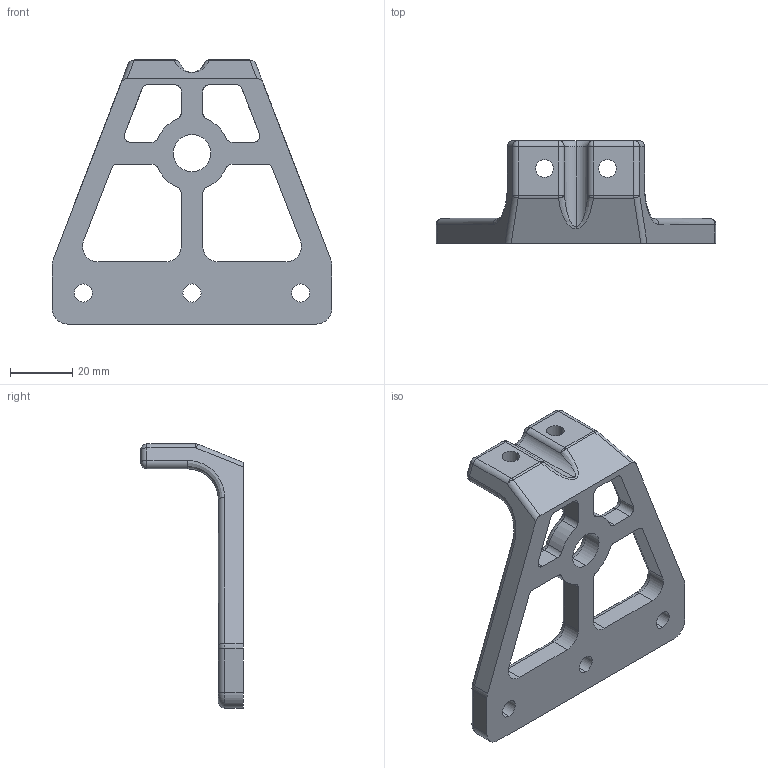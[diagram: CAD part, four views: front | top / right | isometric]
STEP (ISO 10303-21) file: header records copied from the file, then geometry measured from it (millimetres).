
FILE_DESCRIPTION (( 'STEP AP203' ), '1' );
FILE_NAME ('Z ROD MOUNT BOTTOM.STEP', '2012-08-20T19:17:39', ( '' ), ( '' ), 'SwSTEP 2.0', 'SolidWorks 2012', '' );
FILE_SCHEMA (( 'CONFIG_CONTROL_DESIGN' ));
Length unit declared in the file: millimetre
Products named in the file (1): Z ROD MOUNT BOTTOM
Bounding box: 90 x 33 x 85 mm (x, y, z)
Volume: 34118.9 mm3; surface area: 15407 mm2
Topology: 1 solids, 1 shells, 179 faces, 440 edges, 256 vertices
Faces by surface type: cylinder 83, plane 44, torus 30, bspline 12, sphere 10
Entity records: 5661 total; most frequent: CARTESIAN_POINT 1348, DIRECTION 948, ORIENTED_EDGE 860, EDGE_CURVE 430, AXIS2_PLACEMENT_3D 376, VERTEX_POINT 256, CIRCLE 208, EDGE_LOOP 202
